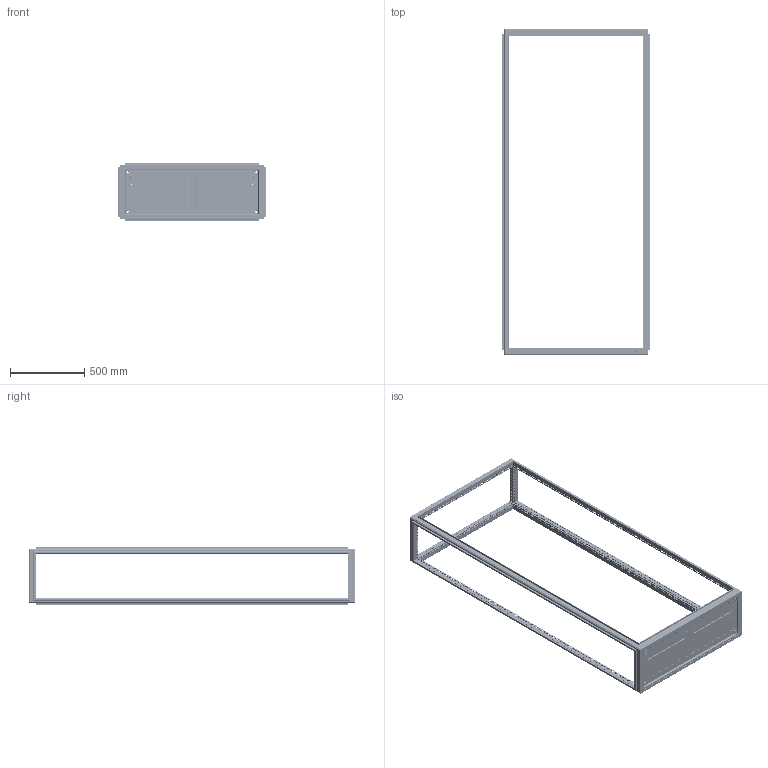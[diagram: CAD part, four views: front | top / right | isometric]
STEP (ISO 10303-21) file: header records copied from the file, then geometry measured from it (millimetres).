
FILE_DESCRIPTION(('STEP AP242'), '1');
FILE_NAME('ÊÑÊ.PRO.S.220.100.40 Êàðêàñ_ñåêöèîíèðîâàíèå', '', ('UNSPECIFIED'), ('UNSPECIFIED'), 'C3D Converter', 'C3D Toolkit', '');
FILE_SCHEMA(('AP242_MANAGED_MODEL_BASED_3D_ENGINEERING_MIM_LF { 1 0 10303 442 1 1 4 }'));
Length unit declared in the file: millimetre
Products named in the file (13): КСК.PRO.S.220.100.40; КСК.PRO.S.100.40; КСК.PRO.220; КСК.PRO.100.40; КСК.PRO.S.220; 2007.100.75; 2007.100.175; 2006.40
Assembly tree (27 placements, depth 2):
  КСК.PRO.S.220.100.40
    КСК.PRO.S.100.40
    КСК.PRO.220
    КСК.PRO.100.40
    КСК.PRO.220
    КСК.PRO.S.220
    КСК.PRO.S.220
    2007.100.75
    2007.100.175
    2007.100.75
    2007.100.175
    (unnamed)  x16
    2006.40
Bounding box: 997 x 2197 x 397 mm (x, y, z)
Volume: 3816218.2 mm3; surface area: 4916929.1 mm2
Topology: 27 solids, 27 shells, 9545 faces, 26885 edges, 17615 vertices
Faces by surface type: plane 6707, cylinder 2272, cone 398, bspline 96, torus 40, sphere 32
Full cylindrical faces by diameter (mm): 3.242 x56, 4.134 x178, 4.5 x1420, 4.8 x16, 6 x56, 6.5 x4, 7 x178, 10.106 x4, 13.835 x4, 14 x4, 21.545 x4
Entity records: 319035 total; most frequent: CARTESIAN_POINT 52470, ORIENTED_EDGE 47302, DIRECTION 46236, EDGE_CURVE 23651, LINE 19026, VECTOR 19026, EDGE_LOOP 17336, VERTEX_POINT 16909
